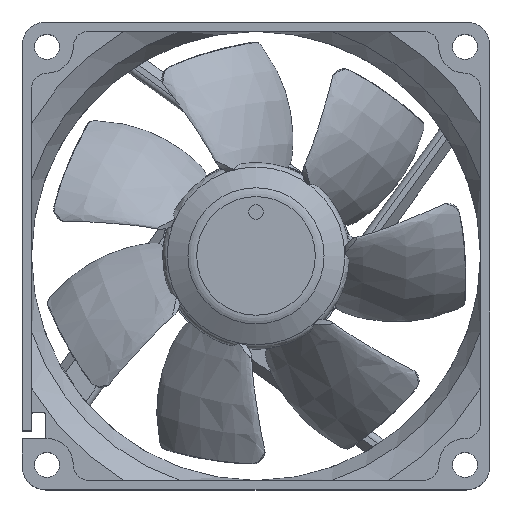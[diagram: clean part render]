
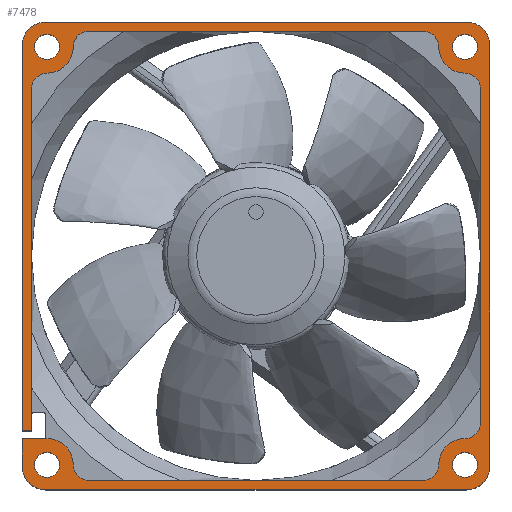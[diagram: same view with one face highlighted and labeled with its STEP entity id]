
A CAD part, top view. The second image highlights one B-rep face of the part: STEP entity #7478.
In plain terms, the highlighted planar face has unit normal (0, 0, 1).
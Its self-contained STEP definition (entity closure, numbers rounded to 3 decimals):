
#249=PLANE('',#8443);
#852=CIRCLE('',#8444,2.15);
#853=CIRCLE('',#8445,2.15);
#854=CIRCLE('',#8446,2.15);
#855=CIRCLE('',#8447,2.15);
#856=CIRCLE('',#8448,2.15);
#857=CIRCLE('',#8449,2.15);
#858=CIRCLE('',#8450,2.15);
#859=CIRCLE('',#8451,2.15);
#860=CIRCLE('',#8452,4.5);
#861=CIRCLE('',#8453,2.65);
#862=CIRCLE('',#8454,2.65);
#863=CIRCLE('',#8455,4.5);
#864=CIRCLE('',#8456,2.65);
#865=CIRCLE('',#8457,2.65);
#866=CIRCLE('',#8458,4.5);
#867=CIRCLE('',#8459,2.65);
#868=CIRCLE('',#8460,2.65);
#869=CIRCLE('',#8461,4.5);
#870=CIRCLE('',#8462,4.);
#871=CIRCLE('',#8463,4.);
#872=CIRCLE('',#8464,4.);
#873=CIRCLE('',#8465,4.);
#874=CIRCLE('',#8466,2.65);
#1835=ORIENTED_EDGE('',*,*,#3905,.T.);
#1836=ORIENTED_EDGE('',*,*,#3906,.T.);
#1837=ORIENTED_EDGE('',*,*,#3907,.T.);
#1838=ORIENTED_EDGE('',*,*,#3908,.T.);
#1839=ORIENTED_EDGE('',*,*,#3909,.T.);
#1840=ORIENTED_EDGE('',*,*,#3910,.T.);
#1841=ORIENTED_EDGE('',*,*,#3911,.T.);
#1842=ORIENTED_EDGE('',*,*,#3912,.T.);
#1843=ORIENTED_EDGE('',*,*,#3913,.T.);
#1844=ORIENTED_EDGE('',*,*,#3914,.T.);
#1845=ORIENTED_EDGE('',*,*,#3915,.T.);
#1846=ORIENTED_EDGE('',*,*,#3916,.T.);
#1847=ORIENTED_EDGE('',*,*,#3917,.T.);
#1848=ORIENTED_EDGE('',*,*,#3918,.T.);
#1849=ORIENTED_EDGE('',*,*,#3919,.F.);
#1850=ORIENTED_EDGE('',*,*,#3920,.T.);
#1851=ORIENTED_EDGE('',*,*,#3921,.T.);
#1852=ORIENTED_EDGE('',*,*,#3922,.T.);
#1853=ORIENTED_EDGE('',*,*,#3923,.F.);
#1854=ORIENTED_EDGE('',*,*,#3924,.T.);
#1855=ORIENTED_EDGE('',*,*,#3925,.T.);
#1856=ORIENTED_EDGE('',*,*,#3926,.T.);
#1857=ORIENTED_EDGE('',*,*,#3927,.T.);
#1858=ORIENTED_EDGE('',*,*,#3928,.T.);
#1859=ORIENTED_EDGE('',*,*,#3764,.T.);
#1860=ORIENTED_EDGE('',*,*,#3929,.T.);
#1861=ORIENTED_EDGE('',*,*,#3744,.T.);
#1862=ORIENTED_EDGE('',*,*,#3930,.T.);
#1863=ORIENTED_EDGE('',*,*,#3724,.T.);
#1864=ORIENTED_EDGE('',*,*,#3931,.T.);
#1865=ORIENTED_EDGE('',*,*,#3713,.T.);
#1866=ORIENTED_EDGE('',*,*,#3903,.F.);
#1867=ORIENTED_EDGE('',*,*,#3932,.T.);
#1868=ORIENTED_EDGE('',*,*,#3933,.T.);
#3713=EDGE_CURVE('',#4812,#4811,#5528,.T.);
#3724=EDGE_CURVE('',#4821,#4822,#5534,.T.);
#3744=EDGE_CURVE('',#4839,#4840,#5545,.T.);
#3764=EDGE_CURVE('',#4857,#4858,#5556,.T.);
#3903=EDGE_CURVE('',#4945,#4811,#5632,.T.);
#3905=EDGE_CURVE('',#4946,#4947,#852,.T.);
#3906=EDGE_CURVE('',#4947,#4946,#853,.T.);
#3907=EDGE_CURVE('',#4948,#4949,#854,.T.);
#3908=EDGE_CURVE('',#4949,#4948,#855,.T.);
#3909=EDGE_CURVE('',#4950,#4951,#856,.T.);
#3910=EDGE_CURVE('',#4951,#4950,#857,.T.);
#3911=EDGE_CURVE('',#4952,#4953,#858,.T.);
#3912=EDGE_CURVE('',#4953,#4952,#859,.T.);
#3913=EDGE_CURVE('',#4954,#4955,#860,.T.);
#3914=EDGE_CURVE('',#4955,#4956,#861,.T.);
#3915=EDGE_CURVE('',#4956,#4957,#5634,.T.);
#3916=EDGE_CURVE('',#4957,#4958,#862,.T.);
#3917=EDGE_CURVE('',#4958,#4959,#863,.T.);
#3918=EDGE_CURVE('',#4959,#4960,#864,.T.);
#3919=EDGE_CURVE('',#4961,#4960,#5635,.T.);
#3920=EDGE_CURVE('',#4961,#4962,#865,.T.);
#3921=EDGE_CURVE('',#4962,#4963,#866,.T.);
#3922=EDGE_CURVE('',#4963,#4964,#867,.T.);
#3923=EDGE_CURVE('',#4965,#4964,#5636,.T.);
#3924=EDGE_CURVE('',#4965,#4966,#868,.T.);
#3925=EDGE_CURVE('',#4966,#4967,#869,.T.);
#3926=EDGE_CURVE('',#4967,#4968,#5637,.T.);
#3927=EDGE_CURVE('',#4968,#4969,#5638,.T.);
#3928=EDGE_CURVE('',#4969,#4857,#870,.T.);
#3929=EDGE_CURVE('',#4858,#4839,#871,.T.);
#3930=EDGE_CURVE('',#4840,#4821,#872,.T.);
#3931=EDGE_CURVE('',#4822,#4812,#873,.T.);
#3932=EDGE_CURVE('',#4945,#4970,#5639,.T.);
#3933=EDGE_CURVE('',#4970,#4954,#874,.T.);
#4811=VERTEX_POINT('',#13056);
#4812=VERTEX_POINT('',#13058);
#4821=VERTEX_POINT('',#13114);
#4822=VERTEX_POINT('',#13115);
#4839=VERTEX_POINT('',#13222);
#4840=VERTEX_POINT('',#13223);
#4857=VERTEX_POINT('',#13330);
#4858=VERTEX_POINT('',#13331);
#4945=VERTEX_POINT('',#13867);
#4946=VERTEX_POINT('',#13871);
#4947=VERTEX_POINT('',#13872);
#4948=VERTEX_POINT('',#13875);
#4949=VERTEX_POINT('',#13876);
#4950=VERTEX_POINT('',#13879);
#4951=VERTEX_POINT('',#13880);
#4952=VERTEX_POINT('',#13883);
#4953=VERTEX_POINT('',#13884);
#4954=VERTEX_POINT('',#13887);
#4955=VERTEX_POINT('',#13888);
#4956=VERTEX_POINT('',#13890);
#4957=VERTEX_POINT('',#13892);
#4958=VERTEX_POINT('',#13894);
#4959=VERTEX_POINT('',#13896);
#4960=VERTEX_POINT('',#13898);
#4961=VERTEX_POINT('',#13900);
#4962=VERTEX_POINT('',#13902);
#4963=VERTEX_POINT('',#13904);
#4964=VERTEX_POINT('',#13906);
#4965=VERTEX_POINT('',#13908);
#4966=VERTEX_POINT('',#13910);
#4967=VERTEX_POINT('',#13912);
#4968=VERTEX_POINT('',#13914);
#4969=VERTEX_POINT('',#13916);
#4970=VERTEX_POINT('',#13922);
#5528=LINE('',#13057,#6000);
#5534=LINE('',#13113,#6006);
#5545=LINE('',#13221,#6017);
#5556=LINE('',#13329,#6028);
#5632=LINE('',#13866,#6104);
#5634=LINE('',#13891,#6106);
#5635=LINE('',#13899,#6107);
#5636=LINE('',#13907,#6108);
#5637=LINE('',#13913,#6109);
#5638=LINE('',#13915,#6110);
#5639=LINE('',#13921,#6111);
#6000=VECTOR('',#9307,1000.);
#6006=VECTOR('',#9319,1000.);
#6017=VECTOR('',#9336,1000.);
#6028=VECTOR('',#9353,1000.);
#6104=VECTOR('',#9597,1000.);
#6106=VECTOR('',#9621,1000.);
#6107=VECTOR('',#9628,1000.);
#6108=VECTOR('',#9635,1000.);
#6109=VECTOR('',#9640,1000.);
#6110=VECTOR('',#9641,1000.);
#6111=VECTOR('',#9650,1000.);
#6463=EDGE_LOOP('',(#1835,#1836));
#6464=EDGE_LOOP('',(#1837,#1838));
#6465=EDGE_LOOP('',(#1839,#1840));
#6466=EDGE_LOOP('',(#1841,#1842));
#6467=EDGE_LOOP('',(#1843,#1844,#1845,#1846,#1847,#1848,#1849,#1850,#1851,
#1852,#1853,#1854,#1855,#1856,#1857,#1858,#1859,#1860,#1861,#1862,#1863,
#1864,#1865,#1866,#1867,#1868));
#6910=FACE_BOUND('',#6463,.T.);
#6911=FACE_BOUND('',#6464,.T.);
#6912=FACE_BOUND('',#6465,.T.);
#6913=FACE_BOUND('',#6466,.T.);
#6914=FACE_BOUND('',#6467,.T.);
#7478=ADVANCED_FACE('',(#6910,#6911,#6912,#6913,#6914),#249,.T.);
#8443=AXIS2_PLACEMENT_3D('',#13869,#9599,#9600);
#8444=AXIS2_PLACEMENT_3D('',#13870,#9601,#9602);
#8445=AXIS2_PLACEMENT_3D('',#13873,#9603,#9604);
#8446=AXIS2_PLACEMENT_3D('',#13874,#9605,#9606);
#8447=AXIS2_PLACEMENT_3D('',#13877,#9607,#9608);
#8448=AXIS2_PLACEMENT_3D('',#13878,#9609,#9610);
#8449=AXIS2_PLACEMENT_3D('',#13881,#9611,#9612);
#8450=AXIS2_PLACEMENT_3D('',#13882,#9613,#9614);
#8451=AXIS2_PLACEMENT_3D('',#13885,#9615,#9616);
#8452=AXIS2_PLACEMENT_3D('',#13886,#9617,#9618);
#8453=AXIS2_PLACEMENT_3D('',#13889,#9619,#9620);
#8454=AXIS2_PLACEMENT_3D('',#13893,#9622,#9623);
#8455=AXIS2_PLACEMENT_3D('',#13895,#9624,#9625);
#8456=AXIS2_PLACEMENT_3D('',#13897,#9626,#9627);
#8457=AXIS2_PLACEMENT_3D('',#13901,#9629,#9630);
#8458=AXIS2_PLACEMENT_3D('',#13903,#9631,#9632);
#8459=AXIS2_PLACEMENT_3D('',#13905,#9633,#9634);
#8460=AXIS2_PLACEMENT_3D('',#13909,#9636,#9637);
#8461=AXIS2_PLACEMENT_3D('',#13911,#9638,#9639);
#8462=AXIS2_PLACEMENT_3D('',#13917,#9642,#9643);
#8463=AXIS2_PLACEMENT_3D('',#13918,#9644,#9645);
#8464=AXIS2_PLACEMENT_3D('',#13919,#9646,#9647);
#8465=AXIS2_PLACEMENT_3D('',#13920,#9648,#9649);
#8466=AXIS2_PLACEMENT_3D('',#13923,#9651,#9652);
#9307=DIRECTION('',(0.,-1.,0.));
#9319=DIRECTION('',(-1.,0.,0.));
#9336=DIRECTION('',(0.,1.,0.));
#9353=DIRECTION('',(1.,0.,0.));
#9597=DIRECTION('',(-1.,0.,0.));
#9599=DIRECTION('',(0.,0.,1.));
#9600=DIRECTION('',(1.,0.,0.));
#9601=DIRECTION('',(0.,0.,-1.));
#9602=DIRECTION('',(1.,0.,0.));
#9603=DIRECTION('',(0.,0.,-1.));
#9604=DIRECTION('',(1.,0.,0.));
#9605=DIRECTION('',(0.,0.,-1.));
#9606=DIRECTION('',(1.,0.,0.));
#9607=DIRECTION('',(0.,0.,-1.));
#9608=DIRECTION('',(1.,0.,0.));
#9609=DIRECTION('',(0.,0.,-1.));
#9610=DIRECTION('',(1.,0.,0.));
#9611=DIRECTION('',(0.,0.,-1.));
#9612=DIRECTION('',(1.,0.,0.));
#9613=DIRECTION('',(0.,0.,-1.));
#9614=DIRECTION('',(1.,0.,0.));
#9615=DIRECTION('',(0.,0.,-1.));
#9616=DIRECTION('',(1.,0.,0.));
#9617=DIRECTION('',(0.,0.,1.));
#9618=DIRECTION('',(1.,0.,0.));
#9619=DIRECTION('',(0.,0.,-1.));
#9620=DIRECTION('',(1.,0.,0.));
#9621=DIRECTION('',(1.,0.,0.));
#9622=DIRECTION('',(0.,0.,-1.));
#9623=DIRECTION('',(1.,0.,0.));
#9624=DIRECTION('',(0.,0.,1.));
#9625=DIRECTION('',(1.,0.,0.));
#9626=DIRECTION('',(0.,0.,-1.));
#9627=DIRECTION('',(1.,0.,0.));
#9628=DIRECTION('',(0.,1.,0.));
#9629=DIRECTION('',(0.,0.,-1.));
#9630=DIRECTION('',(1.,0.,0.));
#9631=DIRECTION('',(0.,0.,1.));
#9632=DIRECTION('',(1.,0.,0.));
#9633=DIRECTION('',(0.,0.,-1.));
#9634=DIRECTION('',(1.,0.,0.));
#9635=DIRECTION('',(1.,0.,0.));
#9636=DIRECTION('',(0.,0.,-1.));
#9637=DIRECTION('',(1.,0.,0.));
#9638=DIRECTION('',(0.,0.,1.));
#9639=DIRECTION('',(1.,0.,0.));
#9640=DIRECTION('',(-1.,0.,0.));
#9641=DIRECTION('',(0.,-1.,0.));
#9642=DIRECTION('',(0.,0.,1.));
#9643=DIRECTION('',(1.,0.,0.));
#9644=DIRECTION('',(0.,0.,1.));
#9645=DIRECTION('',(1.,0.,0.));
#9646=DIRECTION('',(0.,0.,1.));
#9647=DIRECTION('',(1.,0.,0.));
#9648=DIRECTION('',(0.,0.,1.));
#9649=DIRECTION('',(1.,0.,0.));
#9650=DIRECTION('',(0.,1.,0.));
#9651=DIRECTION('',(0.,0.,-1.));
#9652=DIRECTION('',(1.,0.,0.));
#13056=CARTESIAN_POINT('',(-40.,-29.95,25.));
#13057=CARTESIAN_POINT('',(-40.,-36.,25.));
#13058=CARTESIAN_POINT('',(-40.,35.997,25.));
#13113=CARTESIAN_POINT('',(-36.,40.,25.));
#13114=CARTESIAN_POINT('',(36.,40.,25.));
#13115=CARTESIAN_POINT('',(-36.049,40.,25.));
#13221=CARTESIAN_POINT('',(40.,-36.,25.));
#13222=CARTESIAN_POINT('',(40.,-36.,25.));
#13223=CARTESIAN_POINT('',(40.,36.,25.));
#13329=CARTESIAN_POINT('',(-36.,-40.,25.));
#13330=CARTESIAN_POINT('',(-36.,-40.,25.));
#13331=CARTESIAN_POINT('',(36.,-40.,25.));
#13866=CARTESIAN_POINT('',(-38.4,-29.95,25.));
#13867=CARTESIAN_POINT('',(-38.4,-29.95,25.));
#13869=CARTESIAN_POINT('',(-36.,-36.,25.));
#13870=CARTESIAN_POINT('',(35.75,-35.75,25.));
#13871=CARTESIAN_POINT('',(37.9,-35.75,25.));
#13872=CARTESIAN_POINT('',(33.6,-35.75,25.));
#13873=CARTESIAN_POINT('',(35.75,-35.75,25.));
#13874=CARTESIAN_POINT('',(-35.75,-35.75,25.));
#13875=CARTESIAN_POINT('',(-33.6,-35.75,25.));
#13876=CARTESIAN_POINT('',(-37.9,-35.75,25.));
#13877=CARTESIAN_POINT('',(-35.75,-35.75,25.));
#13878=CARTESIAN_POINT('',(35.75,35.75,25.));
#13879=CARTESIAN_POINT('',(37.9,35.75,25.));
#13880=CARTESIAN_POINT('',(33.6,35.75,25.));
#13881=CARTESIAN_POINT('',(35.75,35.75,25.));
#13882=CARTESIAN_POINT('',(-35.75,35.75,25.));
#13883=CARTESIAN_POINT('',(-33.6,35.75,25.));
#13884=CARTESIAN_POINT('',(-37.9,35.75,25.));
#13885=CARTESIAN_POINT('',(-35.75,35.75,25.));
#13886=CARTESIAN_POINT('',(-35.75,35.75,25.));
#13887=CARTESIAN_POINT('',(-35.75,31.25,25.));
#13888=CARTESIAN_POINT('',(-31.25,35.75,25.));
#13889=CARTESIAN_POINT('',(-28.6,35.75,25.));
#13890=CARTESIAN_POINT('',(-28.6,38.4,25.));
#13891=CARTESIAN_POINT('',(-36.,38.4,25.));
#13892=CARTESIAN_POINT('',(28.6,38.4,25.));
#13893=CARTESIAN_POINT('',(28.6,35.75,25.));
#13894=CARTESIAN_POINT('',(31.25,35.75,25.));
#13895=CARTESIAN_POINT('',(35.75,35.75,25.));
#13896=CARTESIAN_POINT('',(35.75,31.25,25.));
#13897=CARTESIAN_POINT('',(35.75,28.6,25.));
#13898=CARTESIAN_POINT('',(38.4,28.6,25.));
#13899=CARTESIAN_POINT('',(38.4,25.432,25.));
#13900=CARTESIAN_POINT('',(38.4,-28.6,25.));
#13901=CARTESIAN_POINT('',(35.75,-28.6,25.));
#13902=CARTESIAN_POINT('',(35.75,-31.25,25.));
#13903=CARTESIAN_POINT('',(35.75,-35.75,25.));
#13904=CARTESIAN_POINT('',(31.25,-35.75,25.));
#13905=CARTESIAN_POINT('',(28.6,-35.75,25.));
#13906=CARTESIAN_POINT('',(28.6,-38.4,25.));
#13907=CARTESIAN_POINT('',(25.432,-38.4,25.));
#13908=CARTESIAN_POINT('',(-28.6,-38.4,25.));
#13909=CARTESIAN_POINT('',(-28.6,-35.75,25.));
#13910=CARTESIAN_POINT('',(-31.25,-35.75,25.));
#13911=CARTESIAN_POINT('',(-35.75,-35.75,25.));
#13912=CARTESIAN_POINT('',(-35.75,-31.25,25.));
#13913=CARTESIAN_POINT('',(-36.,-31.25,25.));
#13914=CARTESIAN_POINT('',(-40.,-31.25,25.));
#13915=CARTESIAN_POINT('',(-40.,-36.,25.));
#13916=CARTESIAN_POINT('',(-40.,-36.,25.));
#13917=CARTESIAN_POINT('',(-36.,-36.,25.));
#13918=CARTESIAN_POINT('',(36.,-36.,25.));
#13919=CARTESIAN_POINT('',(36.,36.,25.));
#13920=CARTESIAN_POINT('',(-36.,36.,25.));
#13921=CARTESIAN_POINT('',(-38.4,-36.,25.));
#13922=CARTESIAN_POINT('',(-38.4,28.6,25.));
#13923=CARTESIAN_POINT('',(-35.75,28.6,25.));
